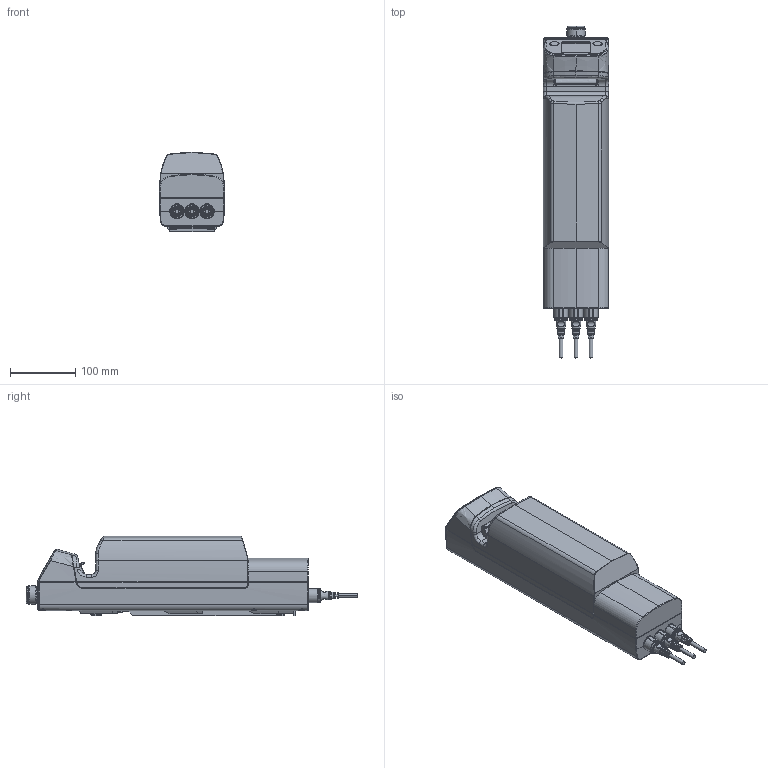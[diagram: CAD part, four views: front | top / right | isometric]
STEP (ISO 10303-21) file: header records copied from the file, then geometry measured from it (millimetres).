
FILE_DESCRIPTION (( 'STEP AP203' ), '1' );
FILE_NAME ('3D_TC12 (5A).STEP', '2014-03-04T07:33:23', ( '' ), ( '' ), 'SwSTEP 2.0', 'SolidWorks 2010', '' );
FILE_SCHEMA (( 'CONFIG_CONTROL_DESIGN' ));
Products named in the file (1): 3D_TC12 (5A)
Bounding box: 100 x 509.3 x 121.58 mm (x, y, z)
Volume: 3903503.8 mm3; surface area: 416313.1 mm2
Topology: 18 solids, 18 shells, 1492 faces, 3716 edges, 2306 vertices
Faces by surface type: plane 593, cylinder 409, torus 185, bspline 158, cone 120, sphere 27
Entity records: 77409 total; most frequent: CARTESIAN_POINT 42510, ORIENTED_EDGE 7392, DIRECTION 7212, EDGE_CURVE 3696, AXIS2_PLACEMENT_3D 2828, VERTEX_POINT 2302, EDGE_LOOP 1582, VECTOR 1556
